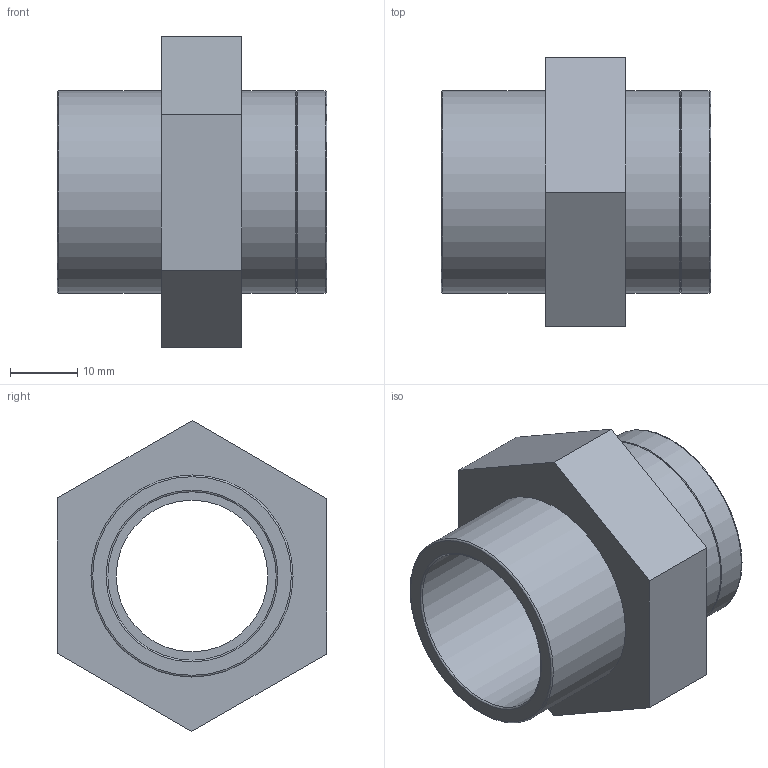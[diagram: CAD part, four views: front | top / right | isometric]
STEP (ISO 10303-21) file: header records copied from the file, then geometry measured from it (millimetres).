
FILE_DESCRIPTION(/* description */ ('PLASSON AD. SOCKET REINF.PVC 25-3/4"'),/* implementation_level */ '2;1');
FILE_NAME(/* name */ 'C:\Dropbox\KIMPROJECTS-Inventor\99-16-3568-Processing\PVC Catalog 2017\057102\057102025007.ipt.stp',/* time_stamp */ '2017-12-07T16:05:23+02:00',/* author */ ('KIM'),/* organization */ (''),/* preprocessor_version */ 'ST-DEVELOPER v15.6',/* originating_system */ 'Autodesk Inventor 2015',/* authorisation */ '');
FILE_SCHEMA (('AUTOMOTIVE_DESIGN { 1 0 10303 214 3 1 1 }'));
Length unit declared in the file: millimetre
Products named in the file (1): 057102025007
Bounding box: 40 x 40.06 x 46.19 mm (x, y, z)
Volume: 17672.2 mm3; surface area: 9316.8 mm2
Topology: 1 solids, 1 shells, 24 faces, 47 edges, 29 vertices
Faces by surface type: plane 12, cylinder 6, torus 4, cone 2
Full cylindrical faces by diameter (mm): 22.5 x1, 24.117 x1, 25 x1, 30 x3
Entity records: 580 total; most frequent: DIRECTION 102, CARTESIAN_POINT 89, ORIENTED_EDGE 70, EDGE_LOOP 42, AXIS2_PLACEMENT_3D 42, EDGE_CURVE 35, VERTEX_POINT 29, FACE_OUTER_BOUND 24
